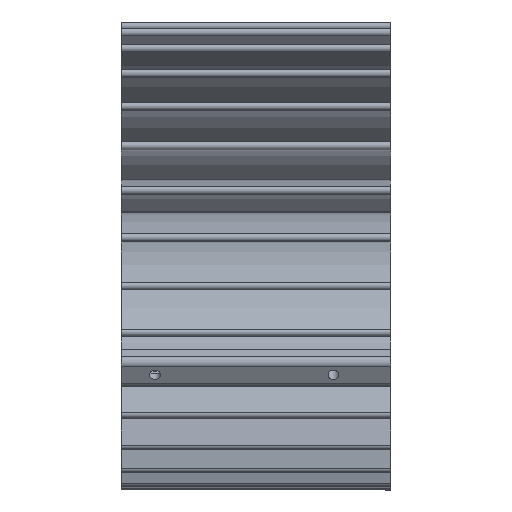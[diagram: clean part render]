
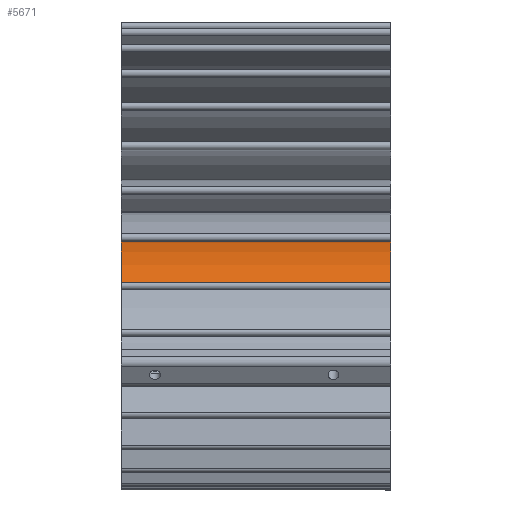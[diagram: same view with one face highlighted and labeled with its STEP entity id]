
A CAD part, left-side view. The second image highlights one B-rep face of the part: STEP entity #5671.
In plain terms, the highlighted cylindrical face has radius 30 mm (diameter 60 mm), a partial arc.
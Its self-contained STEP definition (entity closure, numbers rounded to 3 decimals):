
#489=CARTESIAN_POINT('',(-15.53,0.,-27.369));
#490=DIRECTION('',(0.,1.,0.));
#491=DIRECTION('',(-0.624,0.,0.781));
#492=AXIS2_PLACEMENT_3D('',#489,#490,#491);
#692=CARTESIAN_POINT('',(-15.53,40.,-27.369));
#693=DIRECTION('',(0.,1.,0.));
#694=DIRECTION('',(-0.624,0.,0.781));
#695=AXIS2_PLACEMENT_3D('',#692,#693,#694);
#2038=DIRECTION('',(0.,-1.,0.));
#2039=VECTOR('',#2038,40.);
#2040=CARTESIAN_POINT('',(-34.258,40.,-3.933));
#2041=LINE('',#2040,#2039);
#2042=DIRECTION('',(0.,1.,0.));
#2043=VECTOR('',#2042,40.);
#2044=CARTESIAN_POINT('',(-13.07,0.,2.53));
#2045=LINE('',#2044,#2043);
#3039=CARTESIAN_POINT('',(-13.07,0.,2.53));
#3041=VERTEX_POINT('',#3039);
#3042=CARTESIAN_POINT('',(-13.07,40.,2.53));
#3044=VERTEX_POINT('',#3042);
#3382=CARTESIAN_POINT('',(-34.258,40.,-3.933));
#3384=VERTEX_POINT('',#3382);
#3386=CARTESIAN_POINT('',(-34.258,0.,-3.933));
#3387=VERTEX_POINT('',#3386);
#5659=CARTESIAN_POINT('',(-15.53,0.,-27.369));
#5660=DIRECTION('',(0.,1.,0.));
#5661=DIRECTION('',(-0.208,0.,-0.978));
#5662=AXIS2_PLACEMENT_3D('',#5659,#5660,#5661);
#5663=CYLINDRICAL_SURFACE('',#5662,30.);
#5664=ORIENTED_EDGE('',*,*,#5652,.F.);
#5665=ORIENTED_EDGE('',*,*,#4123,.T.);
#5667=ORIENTED_EDGE('',*,*,#5666,.F.);
#5668=ORIENTED_EDGE('',*,*,#3987,.F.);
#5669=EDGE_LOOP('',(#5664,#5665,#5667,#5668));
#5670=FACE_OUTER_BOUND('',#5669,.F.);
#5671=ADVANCED_FACE('',(#5670),#5663,.T.);
#493=CIRCLE('',#492,30.);
#696=CIRCLE('',#695,30.);
#3987=EDGE_CURVE('',#3387,#3041,#493,.T.);
#4123=EDGE_CURVE('',#3384,#3044,#696,.T.);
#5652=EDGE_CURVE('',#3384,#3387,#2041,.T.);
#5666=EDGE_CURVE('',#3041,#3044,#2045,.T.);
